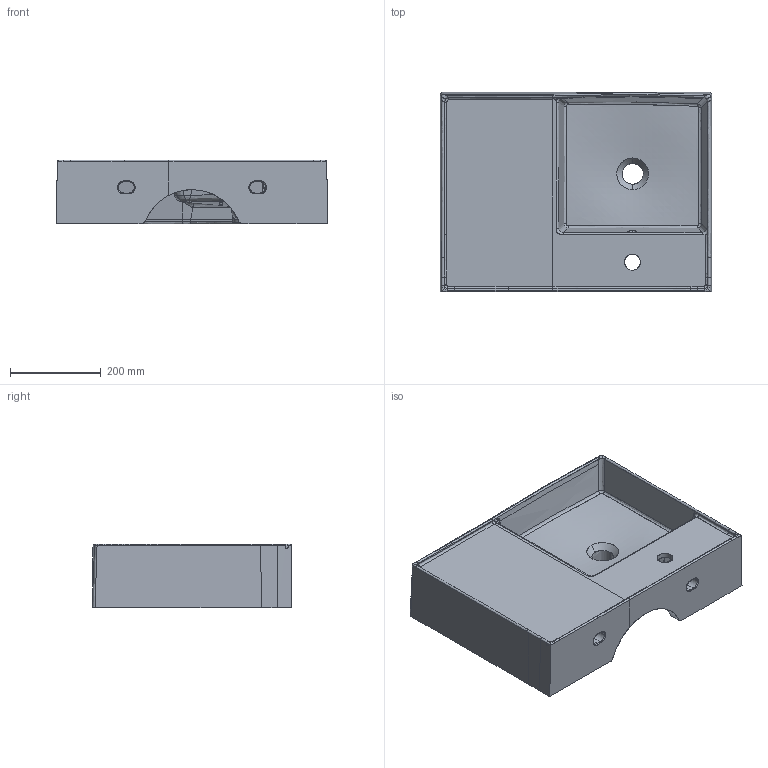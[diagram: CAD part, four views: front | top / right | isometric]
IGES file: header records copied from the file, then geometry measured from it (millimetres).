
Global section: file name: C:\Users\Massimiliano\Desktop\ETRA 2.0 lavabo 60x44 art.5114\TEOREMA 2.0 lavabo 60x44 art.5114.igs; native system: Rhinoceros ( Mar 28 2013 ); preprocessor: Trout Lake IGES 012 Mar 28 2013; date: 171204.093533; units: millimetre
Bounding box: 600 x 440 x 140.23 mm (x, y, z)
Surface area: 1069936.7 mm2 (no closed solid volume)
Topology: 0 solids, 0 shells, 298 faces, 2630 edges, 2628 vertices
Faces by surface type: bspline 298
